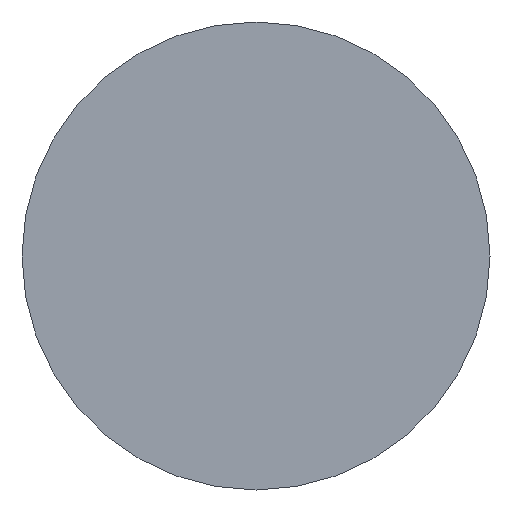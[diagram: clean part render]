
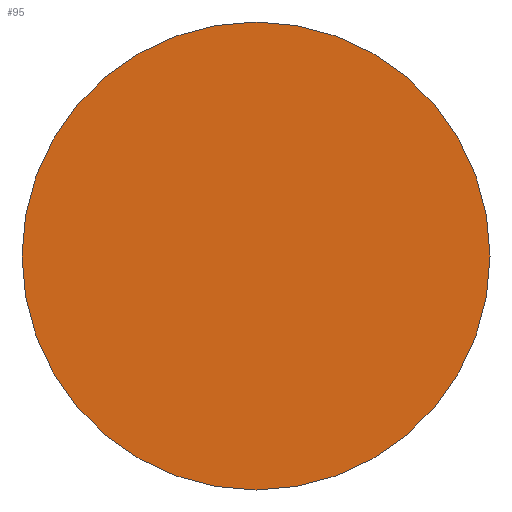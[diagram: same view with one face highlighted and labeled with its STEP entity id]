
A CAD part, front view. The second image highlights one B-rep face of the part: STEP entity #95.
In plain terms, the highlighted planar face has unit normal (0, -1, 0).
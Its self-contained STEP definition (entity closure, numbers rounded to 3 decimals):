
#95 = ADVANCED_FACE( '', ( #141 ), #142, .F. );
#141 = FACE_OUTER_BOUND( '', #189, .T. );
#142 = PLANE( '', #190 );
#189 = EDGE_LOOP( '', ( #344, #345 ) );
#190 = AXIS2_PLACEMENT_3D( '', #346, #347, #348 );
#344 = ORIENTED_EDGE( '', *, *, #402, .F. );
#345 = ORIENTED_EDGE( '', *, *, #359, .F. );
#346 = CARTESIAN_POINT( '', ( 0., -1.6, 0. ) );
#347 = DIRECTION( '', ( 0., 1., 0. ) );
#348 = DIRECTION( '', ( 0., 0., 1. ) );
#359 = EDGE_CURVE( '', #409, #405, #411, .T. );
#402 = EDGE_CURVE( '', #405, #409, #482, .T. );
#405 = VERTEX_POINT( '', #485 );
#409 = VERTEX_POINT( '', #490 );
#411 = CIRCLE( '', #493, 35. );
#482 = CIRCLE( '', #598, 35. );
#485 = CARTESIAN_POINT( '', ( 35., -1.6, 0. ) );
#490 = CARTESIAN_POINT( '', ( -35., -1.6, 0. ) );
#493 = AXIS2_PLACEMENT_3D( '', #605, #606, #607 );
#598 = AXIS2_PLACEMENT_3D( '', #666, #667, #668 );
#605 = CARTESIAN_POINT( '', ( 0., -1.6, 0. ) );
#606 = DIRECTION( '', ( 0., 1., 0. ) );
#607 = DIRECTION( '', ( 1., 0., 0. ) );
#666 = CARTESIAN_POINT( '', ( 0., -1.6, 0. ) );
#667 = DIRECTION( '', ( 0., 1., 0. ) );
#668 = DIRECTION( '', ( 1., 0., 0. ) );
